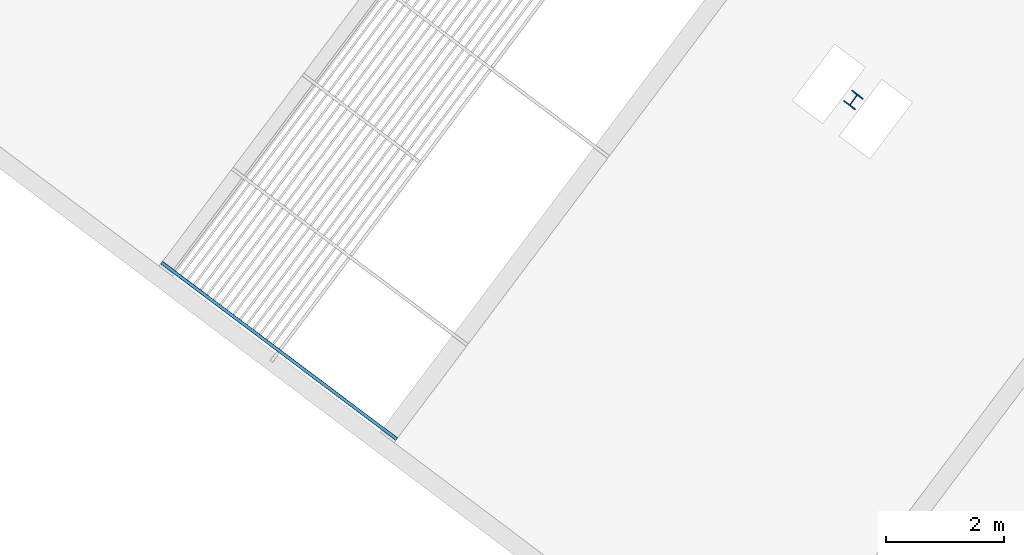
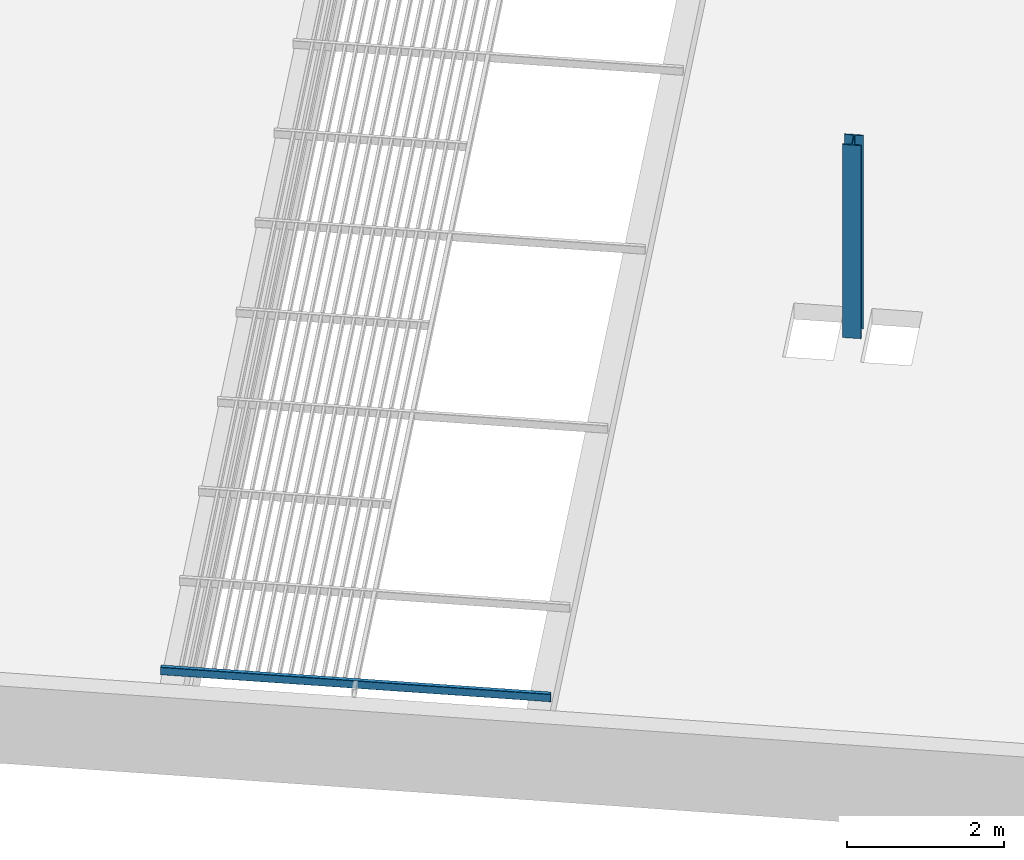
# One storey, part 1 of 95: 1 beam, 1 column.
"""IFC2X3 building model written with IfcOpenShell, lengths in metres."""

from ifc_helpers import new_model, entity, si_unit, converted_unit, derived_unit, direction, frame, frame_2d, origin, place, context, subcontext, project, spatial, polyline, circle_curve, parameter, trimmed, segment, composite_curve, outline, extrude, source, transform, mapped, material, type_object, type_shapes, element, save


model = new_model("IFC2X3")

# Units and contexts
model_context = context("Model", 3, precision=1e-05, world=origin(), true_north=direction((6.123031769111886e-17, 1.0)))
body_context = subcontext(model_context, "Body", "Model", "MODEL_VIEW")
ifc_project = project(units=[si_unit("LENGTHUNIT", "METRE"), si_unit("AREAUNIT", "SQUARE_METRE"), si_unit("VOLUMEUNIT", "CUBIC_METRE"), converted_unit("PLANEANGLEUNIT", "DEGREE", entity("IfcRatioMeasure", 0.017453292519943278), si_unit("PLANEANGLEUNIT", "RADIAN"), dimensions=[0, 0, 0, 0, 0, 0, 0]), si_unit("MASSUNIT", "GRAM", prefix="KILO"), derived_unit("MASSDENSITYUNIT", [(si_unit("MASSUNIT", "GRAM", prefix="KILO"), 1), (si_unit("LENGTHUNIT", "METRE"), -3)]), derived_unit("IONCONCENTRATIONUNIT", [(si_unit("MASSUNIT", "GRAM", prefix="KILO"), 1), (si_unit("LENGTHUNIT", "METRE"), -3)]), derived_unit("MOMENTOFINERTIAUNIT", [(si_unit("LENGTHUNIT", "METRE"), 4)]), si_unit("TIMEUNIT", "SECOND"), si_unit("FREQUENCYUNIT", "HERTZ"), si_unit("THERMODYNAMICTEMPERATUREUNIT", "DEGREE_CELSIUS"), derived_unit("THERMALTRANSMITTANCEUNIT", [(si_unit("MASSUNIT", "GRAM", prefix="KILO"), 1), (si_unit("THERMODYNAMICTEMPERATUREUNIT", "KELVIN"), -1), (si_unit("TIMEUNIT", "SECOND"), -3)]), derived_unit("THERMALCONDUCTANCEUNIT", [(si_unit("MASSUNIT", "GRAM", prefix="KILO"), 1), (si_unit("THERMODYNAMICTEMPERATUREUNIT", "KELVIN"), -1), (si_unit("TIMEUNIT", "SECOND"), -3), (si_unit("LENGTHUNIT", "METRE"), 1)]), derived_unit("VOLUMETRICFLOWRATEUNIT", [(si_unit("LENGTHUNIT", "METRE"), 3), (si_unit("TIMEUNIT", "SECOND"), -1)]), derived_unit("MASSFLOWRATEUNIT", [(si_unit("MASSUNIT", "GRAM", prefix="KILO"), 1), (si_unit("TIMEUNIT", "SECOND"), -1)]), derived_unit("ROTATIONALFREQUENCYUNIT", [(si_unit("TIMEUNIT", "SECOND"), -1)]), si_unit("ELECTRICCURRENTUNIT", "AMPERE"), si_unit("ELECTRICVOLTAGEUNIT", "VOLT"), si_unit("POWERUNIT", "WATT"), si_unit("FORCEUNIT", "NEWTON", prefix="KILO"), si_unit("ILLUMINANCEUNIT", "LUX"), si_unit("LUMINOUSFLUXUNIT", "LUMEN"), si_unit("LUMINOUSINTENSITYUNIT", "CANDELA"), derived_unit("USERDEFINED", [(si_unit("MASSUNIT", "GRAM", prefix="KILO"), -1), (si_unit("LENGTHUNIT", "METRE"), -2), (si_unit("TIMEUNIT", "SECOND"), 3), (si_unit("LUMINOUSFLUXUNIT", "LUMEN"), 1)]), derived_unit("USERDEFINED", [(si_unit("MASSUNIT", "GRAM", prefix="KILO"), 1), (si_unit("TIMEUNIT", "SECOND"), -3), (si_unit("LENGTHUNIT", "METRE"), 3), (si_unit("ELECTRICCURRENTUNIT", "AMPERE"), -2)]), derived_unit("SOUNDPOWERUNIT", [(si_unit("MASSUNIT", "GRAM", prefix="KILO"), 1), (si_unit("TIMEUNIT", "SECOND"), -3), (si_unit("LENGTHUNIT", "METRE"), 2)]), derived_unit("SOUNDPRESSUREUNIT", [(si_unit("MASSUNIT", "GRAM", prefix="KILO"), 1), (si_unit("LENGTHUNIT", "METRE"), -1), (si_unit("TIMEUNIT", "SECOND"), -2)]), derived_unit("LINEARVELOCITYUNIT", [(si_unit("LENGTHUNIT", "METRE"), 1), (si_unit("TIMEUNIT", "SECOND"), -1)]), si_unit("PRESSUREUNIT", "PASCAL"), derived_unit("USERDEFINED", [(si_unit("MASSUNIT", "GRAM", prefix="KILO"), 1), (si_unit("LENGTHUNIT", "METRE"), -2), (si_unit("TIMEUNIT", "SECOND"), -2)]), derived_unit("LINEARFORCEUNIT", [(si_unit("MASSUNIT", "GRAM", prefix="KILO"), 1), (si_unit("TIMEUNIT", "SECOND"), -2)]), derived_unit("PLANARFORCEUNIT", [(si_unit("MASSUNIT", "GRAM", prefix="KILO"), 1), (si_unit("LENGTHUNIT", "METRE"), -1), (si_unit("TIMEUNIT", "SECOND"), -2)]), derived_unit("SPECIFICHEATCAPACITYUNIT", [(si_unit("THERMODYNAMICTEMPERATUREUNIT", "KELVIN"), -1), (si_unit("LENGTHUNIT", "METRE"), 2), (si_unit("TIMEUNIT", "SECOND"), -2)]), derived_unit("HEATINGVALUEUNIT", [(si_unit("LENGTHUNIT", "METRE"), 2), (si_unit("TIMEUNIT", "SECOND"), -2)]), derived_unit("VAPORPERMEABILITYUNIT", [(si_unit("LENGTHUNIT", "METRE"), -1), (si_unit("TIMEUNIT", "SECOND"), 1)]), derived_unit("DYNAMICVISCOSITYUNIT", [(si_unit("MASSUNIT", "GRAM", prefix="KILO"), 1), (si_unit("TIMEUNIT", "SECOND"), -1), (si_unit("LENGTHUNIT", "METRE"), -1)]), derived_unit("THERMALEXPANSIONCOEFFICIENTUNIT", [(si_unit("THERMODYNAMICTEMPERATUREUNIT", "KELVIN"), -1)]), derived_unit("MODULUSOFELASTICITYUNIT", [(si_unit("MASSUNIT", "GRAM", prefix="KILO"), 1), (si_unit("LENGTHUNIT", "METRE"), -1), (si_unit("TIMEUNIT", "SECOND"), -2)]), derived_unit("ISOTHERMALMOISTURECAPACITYUNIT", [(si_unit("LENGTHUNIT", "METRE"), 3), (si_unit("MASSUNIT", "GRAM", prefix="KILO"), -1)]), derived_unit("MOISTUREDIFFUSIVITYUNIT", [(si_unit("TIMEUNIT", "SECOND"), -1), (si_unit("LENGTHUNIT", "METRE"), 2)])], contexts=[model_context])

# Site, building, storey
site_placement = place(None, origin())
site = spatial("IfcSite", under=ifc_project, at=site_placement, Name="Default", CompositionType="ELEMENT")
building_placement = place(site_placement, frame((0.0, 0.0, 235.0), z_axis=(0.0, 0.0, 1.0), x_axis=(-0.7996477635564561, 0.6004693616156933, 0.0)))
building = spatial("IfcBuilding", under=site, at=building_placement, CompositionType="ELEMENT")
storey_placement = place(building_placement, frame((0.0, 0.0, 3.400000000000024)))
storey = spatial("IfcBuildingStorey", under=building, at=storey_placement, Name="PC- Coberta STR", CompositionType="ELEMENT", Elevation=3.400000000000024)

# Column
ifc_material = material(Name="_Acer- STR")
column_type = type_object("IfcColumnType", Name="STR- P- Acer- HEB- T1:HEB 240", PredefinedType="COLUMN", material=ifc_material)
shared_shape = source(origin(), body_context, "Body", "SweptSolid", [
    extrude(outline(composite_curve([segment(polyline([(0.10299999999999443, -0.120000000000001), (0.11999999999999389, -0.120000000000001)]), True, "CONTINUOUS"), segment(polyline([(0.11999999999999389, -0.120000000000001), (0.11999999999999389, 0.120000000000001)]), True, "CONTINUOUS"), segment(polyline([(0.11999999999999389, 0.11999999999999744), (0.10299999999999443, 0.11999999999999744)]), True, "CONTINUOUS"), segment(polyline([(0.10299999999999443, 0.11999999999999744), (0.10299999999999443, 0.02599999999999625)]), True, "CONTINUOUS"), segment(trimmed(circle_curve(frame_2d((0.08199999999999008, 0.0259999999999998), x_axis=(1.0, 0.0)), 0.021000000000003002), [parameter(270.0000000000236)], [parameter(0.0)], True, "PARAMETER"), False, "CONTINUOUS"), segment(polyline([(0.08199999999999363, 0.004999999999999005), (-0.08200000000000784, 0.004999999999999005)]), True, "CONTINUOUS"), segment(trimmed(circle_curve(frame_2d((-0.08200000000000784, 0.02599999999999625), x_axis=(0.0, -1.0)), 0.02099999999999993), [parameter(269.9999999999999)], [parameter(0.0)], True, "PARAMETER"), False, "CONTINUOUS"), segment(polyline([(-0.10300000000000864, 0.02599999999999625), (-0.10300000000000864, 0.11999999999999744)]), True, "CONTINUOUS"), segment(polyline([(-0.10300000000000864, 0.11999999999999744), (-0.1200000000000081, 0.11999999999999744)]), True, "CONTINUOUS"), segment(polyline([(-0.12000000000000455, 0.11999999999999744), (-0.12000000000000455, -0.12000000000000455)]), True, "CONTINUOUS"), segment(polyline([(-0.12000000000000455, -0.120000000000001), (-0.10300000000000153, -0.120000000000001)]), True, "CONTINUOUS"), segment(polyline([(-0.10300000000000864, -0.120000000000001), (-0.10300000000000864, -0.0259999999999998)]), True, "CONTINUOUS"), segment(trimmed(circle_curve(frame_2d((-0.08200000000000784, -0.0259999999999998), x_axis=(-1.0, 0.0)), 0.020999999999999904), [parameter(269.9999999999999)], [parameter(0.0)], True, "PARAMETER"), False, "CONTINUOUS"), segment(polyline([(-0.08200000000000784, -0.004999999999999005), (0.08199999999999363, -0.004999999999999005)]), True, "CONTINUOUS"), segment(trimmed(circle_curve(frame_2d((0.08199999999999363, -0.0259999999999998), x_axis=(0.0, 1.0)), 0.021000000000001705), [parameter(269.9999999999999)], [parameter(0.0)], True, "PARAMETER"), False, "CONTINUOUS"), segment(polyline([(0.10299999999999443, -0.0259999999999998), (0.10299999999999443, -0.120000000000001)]), True, "CONTINUOUS")], self_intersect=False)), frame((20.897719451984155, -27.690189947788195, 3.400000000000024), z_axis=(0.0, 0.0, 1.0), x_axis=(0.0, -1.0, 0.0)), (0.0, 0.0, 1.0), 3.0000000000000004),
])
type_shapes(column_type, [shared_shape])
column_placement = place(storey_placement, frame((0.0, 0.0, -3.400000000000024)))
element("IfcColumn", 1, at=column_placement, inside=storey, type_object=column_type, material=ifc_material, Name="STR- P- Acer- HEB- T1:HEB 240", ObjectType="STR- P- Acer- HEB- T1:HEB 240", context=body_context, shape_type="MappedRepresentation", body=[
    mapped(shared_shape, transform((0.0, 0.0, 0.0), scale=1.0)),
])

# Beam
beam_type = type_object("IfcBeamType", Name="STR- V- Acer- RHS- Rectangular- T1:120x60RHS", PredefinedType="NOTDEFINED")
beam_placement = place(storey_placement, frame((23.645147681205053, -18.446787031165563, 0.49840472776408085), z_axis=(0.0, 0.0, 1.0), x_axis=(-1.0, 0.0, 0.0)))
element("IfcBeam", 2, at=beam_placement, inside=storey, type_object=beam_type, material=ifc_material, Name="STR- V- Acer- RHS- Rectangular- T1:120x60RHS", ObjectType="STR- V- Acer- RHS- Rectangular- T1:120x60RHS", context=body_context, shape_type="SweptSolid", body=[
    extrude(outline(composite_curve([segment(trimmed(circle_curve(frame_2d((-0.022000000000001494, -0.05200000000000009), x_axis=(1.0, 0.0)), 0.008), [parameter(180.0000000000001)], [parameter(269.99999999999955)], True, "PARAMETER"), True, "CONTINUOUS"), segment(polyline([(-0.022000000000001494, -0.05999999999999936), (0.021999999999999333, -0.05999999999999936)]), True, "CONTINUOUS"), segment(trimmed(circle_curve(frame_2d((0.021999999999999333, -0.05200000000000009), x_axis=(1.0, 0.0)), 0.008), [parameter(269.99999999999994)], [parameter(5.088887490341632e-14)], True, "PARAMETER"), True, "CONTINUOUS"), segment(polyline([(0.029999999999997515, -0.05199999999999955), (0.029999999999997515, 0.05200000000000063)]), True, "CONTINUOUS"), segment(trimmed(circle_curve(frame_2d((0.021999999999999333, 0.05200000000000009), x_axis=(1.0, 0.0)), 0.008), [parameter(359.99999999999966)], [parameter(89.99999999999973)], True, "PARAMETER"), True, "CONTINUOUS"), segment(polyline([(0.021999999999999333, 0.060000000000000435), (-0.022000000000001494, 0.060000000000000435)]), True, "CONTINUOUS"), segment(trimmed(circle_curve(frame_2d((-0.022000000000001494, 0.05200000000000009), x_axis=(1.0, 0.0)), 0.008), [parameter(90.00000000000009)], [parameter(180.00000000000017)], True, "PARAMETER"), True, "CONTINUOUS"), segment(polyline([(-0.03000000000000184, 0.05200000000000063), (-0.03000000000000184, -0.05199999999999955)]), True, "CONTINUOUS")], self_intersect=False), holes=[composite_curve([segment(polyline([(0.021999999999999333, -0.05600000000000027), (-0.022000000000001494, -0.05600000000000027)]), True, "CONTINUOUS"), segment(trimmed(circle_curve(frame_2d((-0.022000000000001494, -0.05200000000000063), x_axis=(1.0, 0.0)), 0.004), [parameter(179.99999999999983)], [parameter(269.9999999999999)], True, "PARAMETER"), False, "CONTINUOUS"), segment(polyline([(-0.026000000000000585, -0.05200000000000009), (-0.026000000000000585, 0.05199999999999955)]), True, "CONTINUOUS"), segment(trimmed(circle_curve(frame_2d((-0.022000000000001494, 0.051999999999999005), x_axis=(1.0, 0.0)), 0.004), [parameter(90.00000000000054)], [parameter(180.00000000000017)], True, "PARAMETER"), False, "CONTINUOUS"), segment(polyline([(-0.022000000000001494, 0.05599999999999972), (0.021999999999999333, 0.05599999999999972)]), True, "CONTINUOUS"), segment(trimmed(circle_curve(frame_2d((0.021999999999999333, 0.051999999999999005), x_axis=(1.0, 0.0)), 0.004), [parameter(0.0)], [parameter(90.00000000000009)], True, "PARAMETER"), False, "CONTINUOUS"), segment(polyline([(0.02599999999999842, 0.05199999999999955), (0.02599999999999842, -0.05200000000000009)]), True, "CONTINUOUS"), segment(trimmed(circle_curve(frame_2d((0.021999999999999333, -0.05200000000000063), x_axis=(1.0, 0.0)), 0.004), [parameter(270.00000000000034)], [parameter(3.5622212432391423e-13)], True, "PARAMETER"), False, "CONTINUOUS")], self_intersect=False)]), frame((-5.0, -0.031595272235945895, 0.061595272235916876), z_axis=(1.0, 0.0, 0.0), x_axis=(0.0, -1.0, 0.0)), (0.0, 0.0, 1.0), 5.000000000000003),
])

save(model, "model.ifc")
